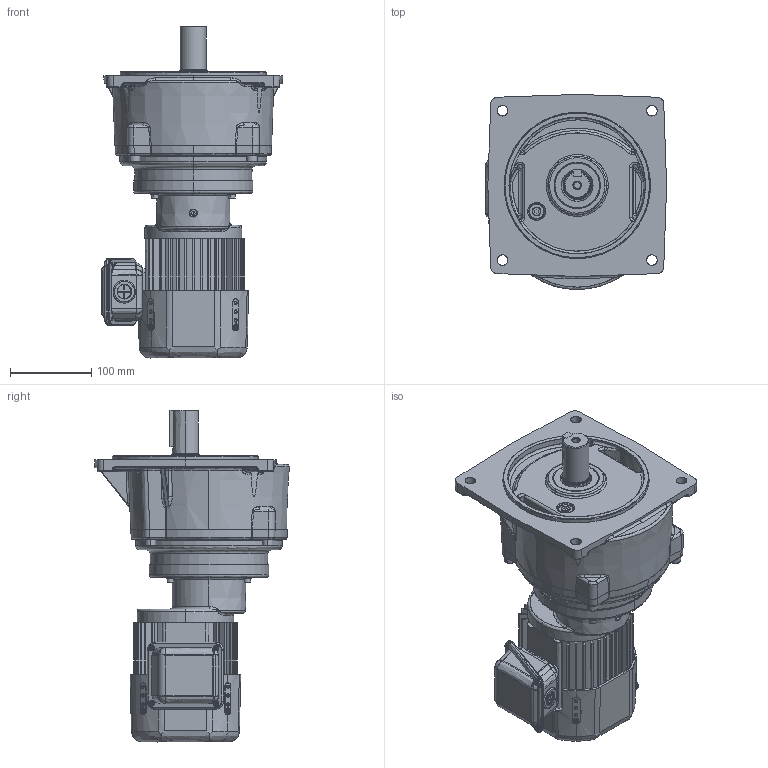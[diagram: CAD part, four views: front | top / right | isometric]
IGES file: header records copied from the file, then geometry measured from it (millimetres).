
Start section: SolidWorks IGES file using analytic representation for surfaces
Global section: file name: \\100.100.100.8\1_共有作業フォルダ\1-5_３Ｄデータ\solidworks\personal-folder\H.Nagayama\SGP1外形\P1(3D)\igs\TMFB2-01-(600~1200).IGS; native system: SolidWorks 2018; preprocessor: SolidWorks 2018; author: sigma-giken; date: 200512.102024; units: millimetre
Bounding box: 223.03 x 240.19 x 408.6 mm (x, y, z)
Surface area: 612439.3 mm2 (no closed solid volume)
Topology: 0 solids, 0 shells, 1959 faces, 25682 edges, 25645 vertices
Faces by surface type: bspline 1060, revolution 899
